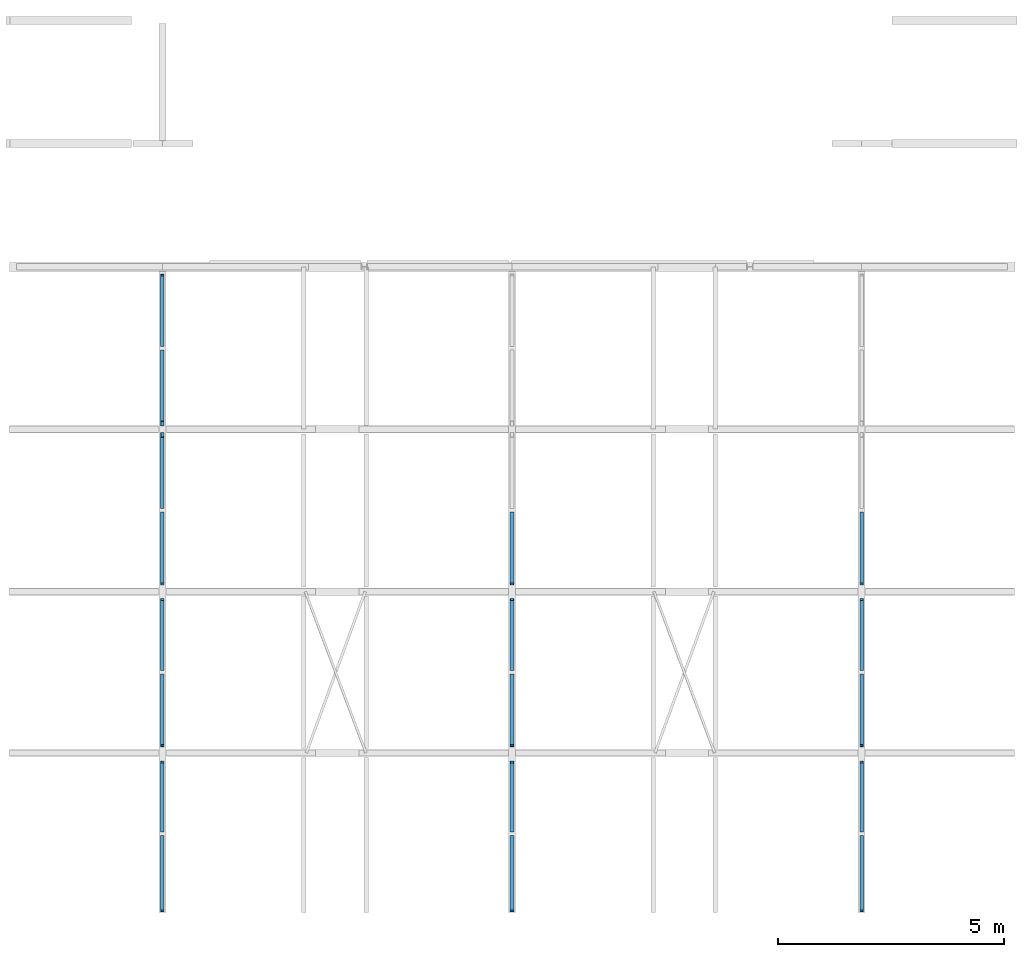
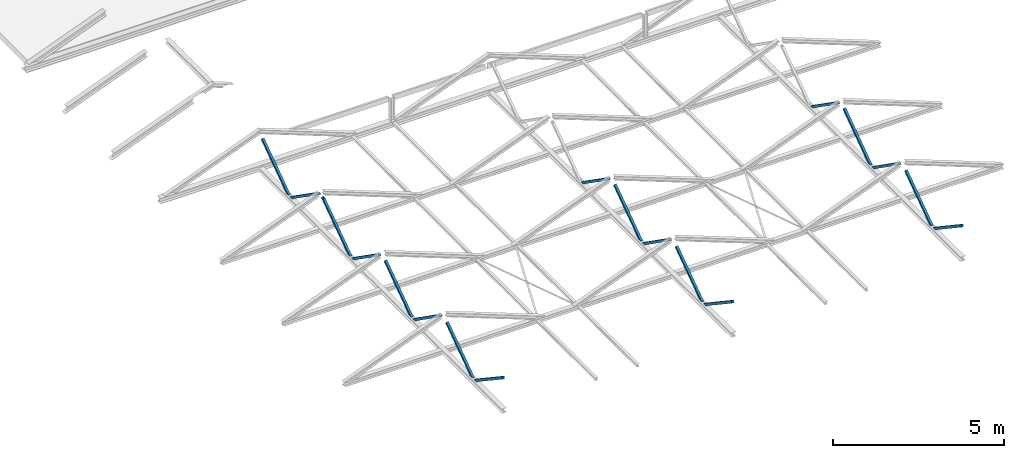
# One storey, part 9 of 10: 18 beams.
"""IFC2X3 building model written with IfcOpenShell, lengths in millimetres."""

from ifc_helpers import new_model, entity, si_unit, converted_unit, derived_unit, direction, frame, origin, place, context, subcontext, project, spatial, faceted_brep, material, type_object, element, save


model = new_model("IFC2X3")

# Units and contexts
model_context = context("Model", 3, precision=0.01, world=origin(), true_north=direction((6.123031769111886e-17, 1.0)))
body_context = subcontext(model_context, "Body", "Model", "MODEL_VIEW")
ifc_project = project(units=[si_unit("LENGTHUNIT", "METRE", prefix="MILLI"), si_unit("AREAUNIT", "SQUARE_METRE", prefix="MILLI"), si_unit("VOLUMEUNIT", "CUBIC_METRE"), converted_unit("PLANEANGLEUNIT", "DEGREE", entity("IfcPlaneAngleMeasure", 0.017453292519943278), si_unit("PLANEANGLEUNIT", "RADIAN"), dimensions=[0, 0, 0, 0, 0, 0, 0]), si_unit("MASSUNIT", "GRAM", prefix="KILO"), derived_unit("MASSDENSITYUNIT", [(si_unit("MASSUNIT", "GRAM", prefix="KILO"), 1), (si_unit("LENGTHUNIT", "METRE"), -3)]), derived_unit("IONCONCENTRATIONUNIT", [(si_unit("MASSUNIT", "GRAM", prefix="KILO"), 1), (si_unit("LENGTHUNIT", "METRE"), -3)]), derived_unit("MOMENTOFINERTIAUNIT", [(si_unit("LENGTHUNIT", "METRE"), 4)]), si_unit("TIMEUNIT", "SECOND"), si_unit("FREQUENCYUNIT", "HERTZ"), si_unit("THERMODYNAMICTEMPERATUREUNIT", "DEGREE_CELSIUS"), derived_unit("THERMALTRANSMITTANCEUNIT", [(si_unit("MASSUNIT", "GRAM", prefix="KILO"), 1), (si_unit("THERMODYNAMICTEMPERATUREUNIT", "KELVIN"), -1), (si_unit("TIMEUNIT", "SECOND"), -3)]), derived_unit("THERMALCONDUCTANCEUNIT", [(si_unit("MASSUNIT", "GRAM", prefix="KILO"), 1), (si_unit("THERMODYNAMICTEMPERATUREUNIT", "KELVIN"), -1), (si_unit("TIMEUNIT", "SECOND"), -3), (si_unit("LENGTHUNIT", "METRE"), 1)]), derived_unit("VOLUMETRICFLOWRATEUNIT", [(si_unit("LENGTHUNIT", "METRE", prefix="DECI"), 3), (si_unit("TIMEUNIT", "SECOND"), -1)]), derived_unit("MASSFLOWRATEUNIT", [(si_unit("MASSUNIT", "GRAM", prefix="KILO"), 1), (si_unit("TIMEUNIT", "SECOND"), -1)]), derived_unit("ROTATIONALFREQUENCYUNIT", [(si_unit("TIMEUNIT", "SECOND"), -1)]), si_unit("ELECTRICCURRENTUNIT", "AMPERE"), si_unit("ELECTRICVOLTAGEUNIT", "VOLT"), si_unit("POWERUNIT", "WATT"), si_unit("FORCEUNIT", "NEWTON", prefix="KILO"), si_unit("ILLUMINANCEUNIT", "LUX"), si_unit("LUMINOUSFLUXUNIT", "LUMEN"), si_unit("LUMINOUSINTENSITYUNIT", "CANDELA"), si_unit("ENERGYUNIT", "JOULE"), derived_unit("USERDEFINED", [(si_unit("MASSUNIT", "GRAM", prefix="KILO"), -1), (si_unit("LENGTHUNIT", "METRE"), -2), (si_unit("TIMEUNIT", "SECOND"), 3), (si_unit("LUMINOUSFLUXUNIT", "LUMEN"), 1)]), derived_unit("USERDEFINED", [(si_unit("MASSUNIT", "GRAM", prefix="KILO"), 1), (si_unit("TIMEUNIT", "SECOND"), -3), (si_unit("LENGTHUNIT", "METRE"), 3), (si_unit("ELECTRICCURRENTUNIT", "AMPERE"), -2)]), derived_unit("SOUNDPOWERUNIT", [(si_unit("MASSUNIT", "GRAM", prefix="KILO"), 1), (si_unit("TIMEUNIT", "SECOND"), -3), (si_unit("LENGTHUNIT", "METRE"), 2)]), derived_unit("SOUNDPRESSUREUNIT", [(si_unit("MASSUNIT", "GRAM", prefix="KILO"), 1), (si_unit("LENGTHUNIT", "METRE"), -1), (si_unit("TIMEUNIT", "SECOND"), -2)]), derived_unit("LINEARVELOCITYUNIT", [(si_unit("LENGTHUNIT", "METRE"), 1), (si_unit("TIMEUNIT", "SECOND"), -1)]), si_unit("PRESSUREUNIT", "PASCAL"), derived_unit("USERDEFINED", [(si_unit("MASSUNIT", "GRAM", prefix="KILO"), 1), (si_unit("LENGTHUNIT", "METRE"), -2), (si_unit("TIMEUNIT", "SECOND"), -2)]), derived_unit("LINEARFORCEUNIT", [(si_unit("MASSUNIT", "GRAM", prefix="KILO"), 1), (si_unit("TIMEUNIT", "SECOND"), -2)]), derived_unit("PLANARFORCEUNIT", [(si_unit("MASSUNIT", "GRAM", prefix="KILO"), 1), (si_unit("LENGTHUNIT", "METRE"), -1), (si_unit("TIMEUNIT", "SECOND"), -2)]), derived_unit("SPECIFICHEATCAPACITYUNIT", [(si_unit("THERMODYNAMICTEMPERATUREUNIT", "KELVIN"), -1), (si_unit("LENGTHUNIT", "METRE"), 2), (si_unit("TIMEUNIT", "SECOND"), -2)]), derived_unit("HEATFLUXDENSITYUNIT", [(si_unit("MASSUNIT", "GRAM", prefix="KILO"), 1), (si_unit("TIMEUNIT", "SECOND"), -3)]), derived_unit("HEATINGVALUEUNIT", [(si_unit("LENGTHUNIT", "METRE"), 2), (si_unit("TIMEUNIT", "SECOND"), -2)]), derived_unit("VAPORPERMEABILITYUNIT", [(si_unit("LENGTHUNIT", "METRE"), -1), (si_unit("TIMEUNIT", "SECOND"), 1)]), derived_unit("DYNAMICVISCOSITYUNIT", [(si_unit("MASSUNIT", "GRAM", prefix="KILO"), 1), (si_unit("TIMEUNIT", "SECOND"), -1), (si_unit("LENGTHUNIT", "METRE"), -1)]), derived_unit("THERMALEXPANSIONCOEFFICIENTUNIT", [(si_unit("THERMODYNAMICTEMPERATUREUNIT", "KELVIN"), -1)]), derived_unit("MODULUSOFELASTICITYUNIT", [(si_unit("MASSUNIT", "GRAM", prefix="KILO"), 1), (si_unit("LENGTHUNIT", "METRE"), -1), (si_unit("TIMEUNIT", "SECOND"), -2)]), derived_unit("ISOTHERMALMOISTURECAPACITYUNIT", [(si_unit("MASSUNIT", "GRAM", prefix="KILO"), -1), (si_unit("LENGTHUNIT", "METRE"), 3)]), derived_unit("MOISTUREDIFFUSIVITYUNIT", [(si_unit("TIMEUNIT", "SECOND"), -1), (si_unit("LENGTHUNIT", "METRE"), 2)]), derived_unit("MASSPERLENGTHUNIT", [(si_unit("MASSUNIT", "GRAM", prefix="KILO"), 1), (si_unit("LENGTHUNIT", "METRE"), -1)]), derived_unit("THERMALRESISTANCEUNIT", [(si_unit("MASSUNIT", "GRAM", prefix="KILO"), -1), (si_unit("TIMEUNIT", "SECOND"), 3), (si_unit("THERMODYNAMICTEMPERATUREUNIT", "KELVIN"), 1)]), derived_unit("ACCELERATIONUNIT", [(si_unit("LENGTHUNIT", "METRE"), 1), (si_unit("TIMEUNIT", "SECOND"), -2)]), derived_unit("ANGULARVELOCITYUNIT", [(si_unit("TIMEUNIT", "SECOND"), -1), (si_unit("PLANEANGLEUNIT", "RADIAN"), 1)]), derived_unit("LINEARSTIFFNESSUNIT", [(si_unit("MASSUNIT", "GRAM", prefix="KILO"), 1), (si_unit("TIMEUNIT", "SECOND"), -2)]), derived_unit("WARPINGCONSTANTUNIT", [(si_unit("LENGTHUNIT", "METRE"), 6)]), derived_unit("LINEARMOMENTUNIT", [(si_unit("MASSUNIT", "GRAM", prefix="KILO"), 1), (si_unit("LENGTHUNIT", "METRE"), 1), (si_unit("TIMEUNIT", "SECOND"), -2)]), derived_unit("TORQUEUNIT", [(si_unit("MASSUNIT", "GRAM", prefix="KILO"), 1), (si_unit("LENGTHUNIT", "METRE"), 2), (si_unit("TIMEUNIT", "SECOND"), -2)])], contexts=[model_context])

# Site, building, storey
site_placement = place(None, origin())
site = spatial("IfcSite", under=ifc_project, at=site_placement, Name="Default", CompositionType="ELEMENT")
building_placement = place(site_placement, origin())
building = spatial("IfcBuilding", under=site, at=building_placement, CompositionType="ELEMENT")
storey_placement = place(building_placement, frame((0.0, 0.0, 10840.0)))
storey = spatial("IfcBuildingStorey", under=building, at=storey_placement, Name="V3 dakvloer", CompositionType="ELEMENT", Elevation=10839.99999999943)

# Beams
ifc_material = material(Name="Metal - Steel - S275 J0H (standaard-kokers/buizen)")
beam_type = type_object("IfcBeamType", Name="btl_staal - Koker:K80x80x5.0", PredefinedType="NOTDEFINED")
beam_1_placement = place(storey_placement, frame((10185.896298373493, 15733.435212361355, 9.95312499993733), z_axis=(0.0, -0.5733968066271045, 0.8192777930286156), x_axis=(0.0, 0.8192777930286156, 0.5733968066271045)))
element("IfcBeam", 1, at=beam_1_placement, inside=storey, type_object=beam_type, material=ifc_material, Name="btl_staal - Koker:K80x80x5.0", ObjectType="btl_staal - Koker:K80x80x5.0", context=body_context, shape_type="Brep", body=[
    faceted_brep([(1894.609122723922, 0.0, -80.0), (1894.609122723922, -80.0, -80.0), (114.30517694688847, -80.0, -80.0), (114.30517694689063, 0.0, -80.0), (1894.609122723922, -5.0, -5.0), (1894.609122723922, -75.0, -5.0), (7.1440735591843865, -75.0, -5.0), (7.144073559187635, -5.0, -5.0), (1894.6091227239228, -5.0, -75.0), (1894.6091227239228, -75.0, -75.0), (1894.609122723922, -80.0, 0.0), (1894.609122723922, 0.0, 0.0), (0.0, 0.0, 0.0), (0.0, -80.0, 0.0), (107.16110338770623, -75.0, -75.0), (107.16110338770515, -5.0, -75.0)], [[[0, 1, 2, 3]], [[4, 5, 6, 7]], [[4, 8, 9, 5], [10, 1, 0, 11]], [[10, 11, 12, 13]], [[11, 0, 3, 12]], [[1, 10, 13, 2]], [[5, 9, 14, 6]], [[9, 8, 15, 14]], [[8, 4, 7, 15]], [[3, 2, 13, 12], [7, 6, 14, 15]]], outer=[[True], [True], [False, True], [True], [True], [True], [True], [True], [True], [True, False]]),
])
beam_2_placement = place(storey_placement, frame((10185.896298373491, 13964.605013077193, 1117.7385856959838), z_axis=(0.0, 0.5733968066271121, 0.8192777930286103), x_axis=(0.0, -0.8192777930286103, 0.5733968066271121)))
element("IfcBeam", 2, at=beam_2_placement, inside=storey, type_object=beam_type, material=ifc_material, Name="btl_staal - Koker:K80x80x5.0", ObjectType="btl_staal - Koker:K80x80x5.0", context=body_context, shape_type="Brep", body=[
    faceted_brep([(-1906.4333306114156, 0.0, -17.872664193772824), (-1906.4333306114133, 80.0, -17.87266419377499), (-12.508734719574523, 80.0, -17.872664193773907), (-12.508734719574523, 0.0, -17.872664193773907), (-2013.5944339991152, 5.0, 57.12733580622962), (-2013.5944339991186, 75.0, 57.12733580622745), (-81.62437784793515, 75.0, 57.12733580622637), (-81.62437784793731, 5.0, 57.12733580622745), (-2020.7385075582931, 80.0, 62.12733580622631), (-2020.7385075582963, 0.0, 62.12733580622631), (-88.76845140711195, 0.0, 62.1273358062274), (-88.76845140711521, 80.0, 62.12733580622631), (0.0, 0.0, 0.0), (0.0, 80.0, 0.0), (-1913.5774041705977, 75.0, -12.872664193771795), (-9.009330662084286, 75.0, -12.872664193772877), (0.0, 75.0, 0.0), (-1913.5774041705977, 5.0, -12.872664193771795), (-9.009330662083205, 5.0, -12.872664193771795), (0.0, 5.0, 0.0)], [[[0, 1, 2, 3]], [[4, 5, 6, 7]], [[8, 9, 10, 11]], [[9, 0, 3, 12, 10]], [[1, 8, 11, 13, 2]], [[5, 14, 15, 16, 6]], [[14, 17, 18, 15]], [[17, 4, 7, 19, 18]], [[1, 0, 9, 8], [5, 4, 17, 14]], [[13, 16, 15, 18, 19, 12, 3, 2]], [[16, 13, 11, 10, 12, 19, 7, 6]]]),
])
beam_3_placement = place(storey_placement, frame((10185.896298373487, 12133.435212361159, 9.953124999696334), z_axis=(0.0, -0.5733968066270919, 0.8192777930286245), x_axis=(0.0, 0.8192777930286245, 0.5733968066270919)))
element("IfcBeam", 3, at=beam_3_placement, inside=storey, type_object=beam_type, material=ifc_material, Name="btl_staal - Koker:K80x80x5.0", ObjectType="btl_staal - Koker:K80x80x5.0", context=body_context, shape_type="Brep", body=[
    faceted_brep([(114.30517694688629, -80.0, -80.0), (114.30517694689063, 0.0, -80.0), (2008.2297728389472, 0.0, -80.0), (2008.229772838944, -80.0, -80.0), (7.144073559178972, -75.0, -5.0), (7.144073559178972, -5.0, -5.0), (1939.1141297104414, -5.0, -5.0), (1939.1141297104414, -75.0, -5.0), (0.0, 0.0, 0.0), (0.0, -80.0, 0.0), (1931.9700561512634, -80.0, 0.0), (1931.9700561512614, 0.0, 0.0), (2020.7385075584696, 0.0, -62.127335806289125), (2020.7385075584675, -80.0, -62.127335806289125), (107.16110338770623, -75.0, -75.0), (2020.7385075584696, -75.0, -62.127335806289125), (2011.729176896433, -75.0, -75.0), (107.16110338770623, -5.0, -75.0), (2011.729176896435, -5.0, -75.0), (2020.7385075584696, -5.0, -62.127335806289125)], [[[0, 1, 2, 3]], [[4, 5, 6, 7]], [[8, 9, 10, 11]], [[1, 8, 11, 12, 2]], [[9, 0, 3, 13, 10]], [[14, 4, 7, 15, 16]], [[17, 14, 16, 18]], [[5, 17, 18, 19, 6]], [[1, 0, 9, 8], [5, 4, 14, 17]], [[13, 15, 7, 6, 19, 12, 11, 10]], [[15, 13, 3, 2, 12, 19, 18, 16]]]),
])
beam_4_placement = place(storey_placement, frame((10185.896298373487, 10443.629893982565, 1106.1576659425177), z_axis=(0.0, 0.5733968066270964, 0.8192777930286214), x_axis=(0.0, -0.8192777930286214, 0.5733968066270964)))
element("IfcBeam", 4, at=beam_4_placement, inside=storey, type_object=beam_type, material=ifc_material, Name="btl_staal - Koker:K80x80x5.0", ObjectType="btl_staal - Koker:K80x80x5.0", context=body_context, shape_type="Brep", body=[
    faceted_brep([(-37.58170162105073, 80.0, -53.697288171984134), (-37.58170162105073, 0.0, -53.697288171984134), (-1835.049538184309, 0.0, -53.697288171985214), (-1835.049538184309, 80.0, -53.697288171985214), (-37.58170162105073, 75.0, 21.30271182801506), (-37.58170162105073, 5.0, 21.30271182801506), (-1942.2106415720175, 5.0, 21.30271182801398), (-1942.2106415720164, 75.0, 21.30271182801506), (-37.58170162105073, 5.0, -48.69728817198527), (-37.58170162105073, 75.0, -48.69728817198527), (-37.581701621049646, 80.0, 26.302711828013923), (-37.581701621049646, 0.0, 26.302711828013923), (-1949.3547151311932, 80.0, 26.302711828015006), (-1949.3547151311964, 0.0, 26.30271182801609), (-1842.1936117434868, 75.0, -48.69728817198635), (-1842.1936117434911, 5.0, -48.697288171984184)], [[[0, 1, 2, 3]], [[4, 5, 6, 7]], [[8, 5, 4, 9], [0, 10, 11, 1]], [[11, 10, 12, 13]], [[1, 11, 13, 2]], [[10, 0, 3, 12]], [[9, 4, 7, 14]], [[8, 9, 14, 15]], [[5, 8, 15, 6]], [[3, 2, 13, 12], [7, 6, 15, 14]]], outer=[[True], [True], [False, True], [True], [True], [True], [True], [True], [True], [True, False]]),
])
beam_5_placement = place(storey_placement, frame((10185.89629837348, 8545.505908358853, 9.953124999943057), z_axis=(0.0, -0.5760789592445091, 0.8173940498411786), x_axis=(0.0, 0.8173940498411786, 0.5760789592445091)))
element("IfcBeam", 5, at=beam_5_placement, inside=storey, type_object=beam_type, material=ifc_material, Name="btl_staal - Koker:K80x80x5.0", ObjectType="btl_staal - Koker:K80x80x5.0", context=body_context, shape_type="Brep", body=[
    faceted_brep([(1901.7175127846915, 0.0, -80.0), (1901.7175127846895, -80.0, -80.0), (113.511390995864, -80.0, -80.0), (113.511390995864, 0.0, -80.0), (1901.7175127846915, -5.0, -5.0), (1901.7175127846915, -75.0, -5.0), (7.094461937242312, -75.0, -5.0), (7.094461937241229, -5.0, -5.0), (1901.7175127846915, -5.0, -75.0), (1901.7175127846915, -75.0, -75.0), (1901.7175127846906, -80.0, 0.0), (1901.7175127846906, 0.0, 0.0), (0.0, 0.0, 0.0), (0.0, -80.0, 0.0), (106.41692905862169, -75.0, -75.0), (106.41692905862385, -5.0, -75.0)], [[[0, 1, 2, 3]], [[4, 5, 6, 7]], [[4, 8, 9, 5], [10, 1, 0, 11]], [[10, 11, 12, 13]], [[11, 0, 3, 12]], [[1, 10, 13, 2]], [[5, 9, 14, 6]], [[9, 8, 15, 14]], [[8, 4, 7, 15]], [[3, 2, 13, 12], [7, 6, 14, 15]]], outer=[[True], [True], [False, True], [True], [True], [True], [True], [True], [True], [True, False]]),
])
beam_6_placement = place(storey_placement, frame((10185.896298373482, 6856.840756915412, 1113.4737710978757), z_axis=(0.0, 0.5760789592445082, 0.8173940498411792), x_axis=(0.0, -0.8173940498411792, 0.5760789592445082)))
element("IfcBeam", 6, at=beam_6_placement, inside=storey, type_object=beam_type, material=ifc_material, Name="btl_staal - Koker:K80x80x5.0", ObjectType="btl_staal - Koker:K80x80x5.0", context=body_context, shape_type="Brep", body=[
    faceted_brep([(-37.67068108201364, 80.0, -53.4506426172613), (-37.67068108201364, 0.0, -53.4506426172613), (-1839.731154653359, 0.0, -53.4506426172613), (-1839.731154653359, 80.0, -53.4506426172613), (-37.670681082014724, 75.0, 21.54935738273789), (-37.670681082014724, 5.0, 21.54935738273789), (-1946.1480837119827, 5.0, 21.54935738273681), (-1946.1480837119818, 75.0, 21.549357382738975), (-37.670681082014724, 5.0, -48.45064261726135), (-37.670681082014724, 75.0, -48.45064261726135), (-37.670681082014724, 80.0, 26.54935738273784), (-37.670681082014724, 0.0, 26.54935738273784), (-1953.242545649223, 80.0, 26.549357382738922), (-1953.242545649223, 0.0, 26.549357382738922), (-1846.8256165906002, 75.0, -48.45064261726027), (-1846.8256165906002, 5.0, -48.45064261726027)], [[[0, 1, 2, 3]], [[4, 5, 6, 7]], [[8, 5, 4, 9], [0, 10, 11, 1]], [[11, 10, 12, 13]], [[1, 11, 13, 2]], [[10, 0, 3, 12]], [[9, 4, 7, 14]], [[8, 9, 14, 15]], [[5, 8, 15, 6]], [[3, 2, 13, 12], [7, 6, 15, 14]]], outer=[[True], [True], [False, True], [True], [True], [True], [True], [True], [True], [True, False]]),
])
beam_7_placement = place(storey_placement, frame((10185.896298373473, 4970.505908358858, 9.953124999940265), z_axis=(0.0, -0.5760789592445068, 0.8173940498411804), x_axis=(0.0, 0.8173940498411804, 0.5760789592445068)))
element("IfcBeam", 7, at=beam_7_placement, inside=storey, type_object=beam_type, material=ifc_material, Name="btl_staal - Koker:K80x80x5.0", ObjectType="btl_staal - Koker:K80x80x5.0", context=body_context, shape_type="Brep", body=[
    faceted_brep([(1862.8329127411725, 0.0, -80.0), (1862.8329127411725, -80.0, -80.0), (113.5113909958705, -80.0, -80.0), (113.51139099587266, 0.0, -80.0), (1862.8329127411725, -5.0, -5.0), (1862.8329127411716, -75.0, -5.0), (7.094461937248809, -75.0, -5.0), (7.094461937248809, -5.0, -5.0), (1862.8329127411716, -5.0, -75.0), (1862.8329127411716, -75.0, -75.0), (1862.8329127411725, -80.0, 0.0), (1862.8329127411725, 0.0, 0.0), (0.0, 0.0, 0.0), (0.0, -80.0, 0.0), (106.41692905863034, -75.0, -75.0), (106.4169290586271, -5.0, -75.0)], [[[0, 1, 2, 3]], [[4, 5, 6, 7]], [[4, 8, 9, 5], [10, 1, 0, 11]], [[10, 11, 12, 13]], [[11, 0, 3, 12]], [[1, 10, 13, 2]], [[5, 9, 14, 6]], [[9, 8, 15, 14]], [[8, 4, 7, 15]], [[3, 2, 13, 12], [7, 6, 14, 15]]], outer=[[True], [True], [False, True], [True], [True], [True], [True], [True], [True], [True, False]]),
])
beam_8_placement = place(storey_placement, frame((10185.896298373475, 3199.6858091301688, 1110.465837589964), z_axis=(0.0, 0.5557540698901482, 0.8313467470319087), x_axis=(0.0, -0.8313467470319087, 0.5557540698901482)))
element("IfcBeam", 8, at=beam_8_placement, inside=storey, type_object=beam_type, material=ifc_material, Name="btl_staal - Koker:K80x80x5.0", ObjectType="btl_staal - Koker:K80x80x5.0", context=body_context, shape_type="Brep", body=[
    faceted_brep([(-36.96194705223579, 80.0, -55.29099310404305), (-36.96194705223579, 0.0, -55.29099310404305), (-1897.5060777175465, 0.0, -55.290993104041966), (-1897.5060777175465, 80.0, -55.290993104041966), (-36.961947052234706, 75.0, 19.70900689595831), (-36.961947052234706, 5.0, 19.70900689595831), (-2009.6977995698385, 5.0, 19.709006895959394), (-2009.697799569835, 75.0, 19.709006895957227), (-36.961947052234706, 5.0, -50.29099310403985), (-36.961947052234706, 75.0, -50.29099310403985), (-36.961947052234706, 80.0, 24.709006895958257), (-36.961947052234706, 0.0, 24.709006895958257), (-2017.1772476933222, 80.0, 24.709006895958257), (-2017.1772476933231, 0.0, 24.70900689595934), (-1904.9855258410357, 75.0, -50.29099310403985), (-1904.9855258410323, 5.0, -50.290993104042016)], [[[0, 1, 2, 3]], [[4, 5, 6, 7]], [[8, 5, 4, 9], [0, 10, 11, 1]], [[11, 10, 12, 13]], [[1, 11, 13, 2]], [[10, 0, 3, 12]], [[9, 4, 7, 14]], [[8, 9, 14, 15]], [[5, 8, 15, 6]], [[3, 2, 13, 12], [7, 6, 15, 14]]], outer=[[True], [True], [False, True], [True], [True], [True], [True], [True], [True], [True, False]]),
])
beam_9_placement = place(storey_placement, frame((17934.986142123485, 10443.629893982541, 1106.1576659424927), z_axis=(0.0, 0.5733968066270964, 0.8192777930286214), x_axis=(0.0, -0.8192777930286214, 0.5733968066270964)))
element("IfcBeam", 9, at=beam_9_placement, inside=storey, type_object=beam_type, material=ifc_material, Name="btl_staal - Koker:K80x80x5.0", ObjectType="btl_staal - Koker:K80x80x5.0", context=body_context, shape_type="Brep", body=[
    faceted_brep([(-37.58170162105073, 80.0, -53.69728817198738), (-37.58170162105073, 0.0, -53.69728817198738), (-1835.049538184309, 0.0, -53.69728817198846), (-1835.049538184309, 80.0, -53.69728817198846), (-37.581701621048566, 75.0, 21.302711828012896), (-37.581701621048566, 5.0, 21.302711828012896), (-1942.210641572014, 5.0, 21.302711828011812), (-1942.210641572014, 75.0, 21.302711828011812), (-37.58170162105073, 5.0, -48.69728817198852), (-37.58170162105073, 75.0, -48.69728817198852), (-37.581701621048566, 80.0, 26.302711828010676), (-37.581701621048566, 0.0, 26.302711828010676), (-1949.3547151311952, 80.0, 26.302711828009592), (-1949.3547151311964, 0.0, 26.302711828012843), (-1842.1936117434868, 75.0, -48.6972881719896), (-1842.1936117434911, 5.0, -48.69728817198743)], [[[0, 1, 2, 3]], [[4, 5, 6, 7]], [[8, 5, 4, 9], [0, 10, 11, 1]], [[11, 10, 12, 13]], [[1, 11, 13, 2]], [[10, 0, 3, 12]], [[9, 4, 7, 14]], [[8, 9, 14, 15]], [[5, 8, 15, 6]], [[3, 2, 13, 12], [7, 6, 15, 14]]], outer=[[True], [True], [False, True], [True], [True], [True], [True], [True], [True], [True, False]]),
])
beam_10_placement = place(storey_placement, frame((17934.986142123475, 8545.50590835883, 9.953124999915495), z_axis=(0.0, -0.5760789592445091, 0.8173940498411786), x_axis=(0.0, 0.8173940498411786, 0.5760789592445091)))
element("IfcBeam", 10, at=beam_10_placement, inside=storey, type_object=beam_type, material=ifc_material, Name="btl_staal - Koker:K80x80x5.0", ObjectType="btl_staal - Koker:K80x80x5.0", context=body_context, shape_type="Brep", body=[
    faceted_brep([(1901.7175127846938, 0.0, -80.0), (1901.7175127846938, -80.0, -80.0), (113.511390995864, -80.0, -80.0), (113.51139099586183, 0.0, -80.0), (1901.7175127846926, -5.0, -5.0), (1901.717512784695, -75.0, -5.0), (7.094461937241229, -75.0, -5.0), (7.094461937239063, -5.0, -5.0), (1901.7175127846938, -5.0, -75.0), (1901.7175127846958, -75.0, -75.0), (1901.717512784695, -80.0, 0.0), (1901.7175127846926, 0.0, 0.0), (0.0, 0.0, 0.0), (0.0, -80.0, 0.0), (106.41692905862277, -75.0, -75.0), (106.41692905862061, -5.0, -75.0)], [[[0, 1, 2, 3]], [[4, 5, 6, 7]], [[4, 8, 9, 5], [10, 1, 0, 11]], [[10, 11, 12, 13]], [[11, 0, 3, 12]], [[1, 10, 13, 2]], [[5, 9, 14, 6]], [[9, 8, 15, 14]], [[8, 4, 7, 15]], [[3, 2, 13, 12], [7, 6, 14, 15]]], outer=[[True], [True], [False, True], [True], [True], [True], [True], [True], [True], [True, False]]),
])
beam_11_placement = place(storey_placement, frame((17934.98614212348, 6856.840756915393, 1113.4737710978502), z_axis=(0.0, 0.5760789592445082, 0.8173940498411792), x_axis=(0.0, -0.8173940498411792, 0.5760789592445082)))
element("IfcBeam", 11, at=beam_11_placement, inside=storey, type_object=beam_type, material=ifc_material, Name="btl_staal - Koker:K80x80x5.0", ObjectType="btl_staal - Koker:K80x80x5.0", context=body_context, shape_type="Brep", body=[
    faceted_brep([(-37.67068108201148, 80.0, -53.45064261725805), (-37.67068108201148, 0.0, -53.45064261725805), (-1839.7311546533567, 0.0, -53.450642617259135), (-1839.7311546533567, 80.0, -53.450642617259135), (-37.67068108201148, 75.0, 21.549357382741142), (-37.67068108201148, 5.0, 21.549357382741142), (-1946.1480837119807, 5.0, 21.549357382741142), (-1946.1480837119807, 75.0, 21.549357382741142), (-37.67068108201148, 5.0, -48.450642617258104), (-37.67068108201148, 75.0, -48.450642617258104), (-37.67068108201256, 80.0, 26.549357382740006), (-37.67068108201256, 0.0, 26.549357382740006), (-1953.2425456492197, 80.0, 26.549357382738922), (-1953.2425456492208, 0.0, 26.549357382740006), (-1846.825616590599, 75.0, -48.450642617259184), (-1846.825616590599, 5.0, -48.450642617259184)], [[[0, 1, 2, 3]], [[4, 5, 6, 7]], [[8, 5, 4, 9], [0, 10, 11, 1]], [[11, 10, 12, 13]], [[1, 11, 13, 2]], [[10, 0, 3, 12]], [[9, 4, 7, 14]], [[8, 9, 14, 15]], [[5, 8, 15, 6]], [[3, 2, 13, 12], [7, 6, 15, 14]]], outer=[[True], [True], [False, True], [True], [True], [True], [True], [True], [True], [True, False]]),
])
beam_12_placement = place(storey_placement, frame((17934.986142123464, 4970.505908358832, 9.953124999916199), z_axis=(0.0, -0.5760789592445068, 0.8173940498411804), x_axis=(0.0, 0.8173940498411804, 0.5760789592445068)))
element("IfcBeam", 12, at=beam_12_placement, inside=storey, type_object=beam_type, material=ifc_material, Name="btl_staal - Koker:K80x80x5.0", ObjectType="btl_staal - Koker:K80x80x5.0", context=body_context, shape_type="Brep", body=[
    faceted_brep([(1862.8329127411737, 0.0, -80.0), (1862.832912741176, -80.0, -80.0), (113.51139099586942, -80.0, -80.0), (113.51139099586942, 0.0, -80.0), (1862.8329127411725, -5.0, -5.0), (1862.8329127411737, -75.0, -5.0), (7.0944619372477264, -75.0, -5.0), (7.094461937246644, -5.0, -5.0), (1862.8329127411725, -5.0, -75.0), (1862.8329127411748, -75.0, -75.0), (1862.8329127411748, -80.0, 0.0), (1862.8329127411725, 0.0, 0.0), (0.0, 0.0, 0.0), (0.0, -80.0, 0.0), (106.41692905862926, -75.0, -75.0), (106.41692905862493, -5.0, -75.0)], [[[0, 1, 2, 3]], [[4, 5, 6, 7]], [[4, 8, 9, 5], [10, 1, 0, 11]], [[10, 11, 12, 13]], [[11, 0, 3, 12]], [[1, 10, 13, 2]], [[5, 9, 14, 6]], [[9, 8, 15, 14]], [[8, 4, 7, 15]], [[3, 2, 13, 12], [7, 6, 14, 15]]], outer=[[True], [True], [False, True], [True], [True], [True], [True], [True], [True], [True, False]]),
])
beam_13_placement = place(storey_placement, frame((17934.986142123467, 3199.685809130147, 1110.4658375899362), z_axis=(0.0, 0.5557540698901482, 0.8313467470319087), x_axis=(0.0, -0.8313467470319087, 0.5557540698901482)))
element("IfcBeam", 13, at=beam_13_placement, inside=storey, type_object=beam_type, material=ifc_material, Name="btl_staal - Koker:K80x80x5.0", ObjectType="btl_staal - Koker:K80x80x5.0", context=body_context, shape_type="Brep", body=[
    faceted_brep([(-36.96194705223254, 80.0, -55.29099310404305), (-36.96194705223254, 0.0, -55.29099310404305), (-1897.5060777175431, 0.0, -55.29099310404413), (-1897.5060777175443, 80.0, -55.290993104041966), (-36.96194705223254, 75.0, 19.70900689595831), (-36.96194705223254, 5.0, 19.70900689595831), (-2009.697799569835, 5.0, 19.70900689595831), (-2009.697799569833, 75.0, 19.709006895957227), (-36.96194705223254, 5.0, -50.290993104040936), (-36.961947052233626, 75.0, -50.290993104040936), (-36.961947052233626, 80.0, 24.709006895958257), (-36.96194705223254, 0.0, 24.709006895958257), (-2017.17724769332, 80.0, 24.709006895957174), (-2017.177247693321, 0.0, 24.709006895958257), (-1904.9855258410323, 75.0, -50.290993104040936), (-1904.9855258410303, 5.0, -50.2909931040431)], [[[0, 1, 2, 3]], [[4, 5, 6, 7]], [[8, 5, 4, 9], [0, 10, 11, 1]], [[11, 10, 12, 13]], [[1, 11, 13, 2]], [[10, 0, 3, 12]], [[9, 4, 7, 14]], [[8, 9, 14, 15]], [[5, 8, 15, 6]], [[3, 2, 13, 12], [7, 6, 15, 14]]], outer=[[True], [True], [False, True], [True], [True], [True], [True], [True], [True], [True, False]]),
])
beam_14_placement = place(storey_placement, frame((25684.07989212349, 10443.629893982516, 1106.1576659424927), z_axis=(0.0, 0.5733968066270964, 0.8192777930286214), x_axis=(0.0, -0.8192777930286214, 0.5733968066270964)))
element("IfcBeam", 14, at=beam_14_placement, inside=storey, type_object=beam_type, material=ifc_material, Name="btl_staal - Koker:K80x80x5.0", ObjectType="btl_staal - Koker:K80x80x5.0", context=body_context, shape_type="Brep", body=[
    faceted_brep([(-37.58170162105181, 80.0, -53.697288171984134), (-37.58170162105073, 0.0, -53.697288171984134), (-1835.0495381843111, 0.0, -53.69728817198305), (-1835.04953818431, 80.0, -53.697288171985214), (-37.581701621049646, 75.0, 21.30271182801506), (-37.581701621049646, 5.0, 21.30271182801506), (-1942.2106415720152, 5.0, 21.30271182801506), (-1942.2106415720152, 75.0, 21.30271182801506), (-37.58170162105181, 5.0, -48.69728817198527), (-37.58170162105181, 75.0, -48.69728817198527), (-37.581701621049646, 80.0, 26.302711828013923), (-37.581701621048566, 0.0, 26.302711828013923), (-1949.3547151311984, 80.0, 26.302711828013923), (-1949.3547151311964, 0.0, 26.30271182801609), (-1842.193611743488, 75.0, -48.69728817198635), (-1842.1936117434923, 5.0, -48.697288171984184)], [[[0, 1, 2, 3]], [[4, 5, 6, 7]], [[8, 5, 4, 9], [0, 10, 11, 1]], [[11, 10, 12, 13]], [[1, 11, 13, 2]], [[10, 0, 3, 12]], [[9, 4, 7, 14]], [[8, 9, 14, 15]], [[5, 8, 15, 6]], [[3, 2, 13, 12], [7, 6, 15, 14]]], outer=[[True], [True], [False, True], [True], [True], [True], [True], [True], [True], [True, False]]),
])
beam_15_placement = place(storey_placement, frame((25684.07989212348, 8545.505908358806, 9.95312499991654), z_axis=(0.0, -0.5760789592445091, 0.8173940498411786), x_axis=(0.0, 0.8173940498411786, 0.5760789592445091)))
element("IfcBeam", 15, at=beam_15_placement, inside=storey, type_object=beam_type, material=ifc_material, Name="btl_staal - Koker:K80x80x5.0", ObjectType="btl_staal - Koker:K80x80x5.0", context=body_context, shape_type="Brep", body=[
    faceted_brep([(1901.7175127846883, 0.0, -80.0), (1901.7175127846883, -80.0, -80.0), (113.51139099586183, -80.0, -80.0), (113.51139099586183, 0.0, -80.0), (1901.7175127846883, -5.0, -5.0), (1901.7175127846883, -75.0, -5.0), (7.0944619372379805, -75.0, -5.0), (7.094461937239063, -5.0, -5.0), (1901.7175127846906, -5.0, -75.0), (1901.7175127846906, -75.0, -75.0), (1901.7175127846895, -80.0, 0.0), (1901.7175127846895, 0.0, 0.0), (0.0, 0.0, 0.0), (0.0, -80.0, 0.0), (106.41692905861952, -75.0, -75.0), (106.41692905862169, -5.0, -75.0)], [[[0, 1, 2, 3]], [[4, 5, 6, 7]], [[4, 8, 9, 5], [10, 1, 0, 11]], [[10, 11, 12, 13]], [[11, 0, 3, 12]], [[1, 10, 13, 2]], [[5, 9, 14, 6]], [[9, 8, 15, 14]], [[8, 4, 7, 15]], [[3, 2, 13, 12], [7, 6, 14, 15]]], outer=[[True], [True], [False, True], [True], [True], [True], [True], [True], [True], [True, False]]),
])
beam_16_placement = place(storey_placement, frame((25684.079892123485, 6856.840756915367, 1113.4737710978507), z_axis=(0.0, 0.5760789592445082, 0.8173940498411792), x_axis=(0.0, -0.8173940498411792, 0.5760789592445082)))
element("IfcBeam", 16, at=beam_16_placement, inside=storey, type_object=beam_type, material=ifc_material, Name="btl_staal - Koker:K80x80x5.0", ObjectType="btl_staal - Koker:K80x80x5.0", context=body_context, shape_type="Brep", body=[
    faceted_brep([(-37.67068108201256, 80.0, -53.450642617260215), (-37.67068108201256, 0.0, -53.450642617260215), (-1839.7311546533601, 0.0, -53.4506426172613), (-1839.7311546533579, 80.0, -53.450642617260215), (-37.67068108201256, 75.0, 21.549357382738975), (-37.67068108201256, 5.0, 21.549357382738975), (-1946.1480837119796, 5.0, 21.549357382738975), (-1946.1480837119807, 75.0, 21.54935738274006), (-37.67068108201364, 5.0, -48.45064261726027), (-37.67068108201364, 75.0, -48.45064261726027), (-37.67068108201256, 80.0, 26.549357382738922), (-37.67068108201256, 0.0, 26.549357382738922), (-1953.242545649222, 80.0, 26.549357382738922), (-1953.242545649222, 0.0, 26.549357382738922), (-1846.825616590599, 75.0, -48.450642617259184), (-1846.825616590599, 5.0, -48.450642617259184)], [[[0, 1, 2, 3]], [[4, 5, 6, 7]], [[8, 5, 4, 9], [0, 10, 11, 1]], [[11, 10, 12, 13]], [[1, 11, 13, 2]], [[10, 0, 3, 12]], [[9, 4, 7, 14]], [[8, 9, 14, 15]], [[5, 8, 15, 6]], [[3, 2, 13, 12], [7, 6, 15, 14]]], outer=[[True], [True], [False, True], [True], [True], [True], [True], [True], [True], [True, False]]),
])
beam_17_placement = place(storey_placement, frame((25684.07989212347, 4970.505908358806, 9.953124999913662), z_axis=(0.0, -0.5760789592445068, 0.8173940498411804), x_axis=(0.0, 0.8173940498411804, 0.5760789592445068)))
element("IfcBeam", 17, at=beam_17_placement, inside=storey, type_object=beam_type, material=ifc_material, Name="btl_staal - Koker:K80x80x5.0", ObjectType="btl_staal - Koker:K80x80x5.0", context=body_context, shape_type="Brep", body=[
    faceted_brep([(1862.8329127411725, 0.0, -80.0), (1862.8329127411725, -80.0, -80.0), (113.51139099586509, -80.0, -80.0), (113.51139099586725, 0.0, -80.0), (1862.8329127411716, -5.0, -5.0), (1862.8329127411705, -75.0, -5.0), (7.094461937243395, -75.0, -5.0), (7.094461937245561, -5.0, -5.0), (1862.8329127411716, -5.0, -75.0), (1862.8329127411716, -75.0, -75.0), (1862.8329127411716, -80.0, 0.0), (1862.8329127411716, 0.0, 0.0), (0.0, 0.0, 0.0), (0.0, -80.0, 0.0), (106.41692905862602, -75.0, -75.0), (106.41692905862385, -5.0, -75.0)], [[[0, 1, 2, 3]], [[4, 5, 6, 7]], [[4, 8, 9, 5], [10, 1, 0, 11]], [[10, 11, 12, 13]], [[11, 0, 3, 12]], [[1, 10, 13, 2]], [[5, 9, 14, 6]], [[9, 8, 15, 14]], [[8, 4, 7, 15]], [[3, 2, 13, 12], [7, 6, 14, 15]]], outer=[[True], [True], [False, True], [True], [True], [True], [True], [True], [True], [True, False]]),
])
beam_18_placement = place(storey_placement, frame((25684.07989212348, 3199.6858091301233, 1110.4658375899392), z_axis=(0.0, 0.5557540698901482, 0.8313467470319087), x_axis=(0.0, -0.8313467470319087, 0.5557540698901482)))
element("IfcBeam", 18, at=beam_18_placement, inside=storey, type_object=beam_type, material=ifc_material, Name="btl_staal - Koker:K80x80x5.0", ObjectType="btl_staal - Koker:K80x80x5.0", context=body_context, shape_type="Brep", body=[
    faceted_brep([(-36.961947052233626, 80.0, -55.29099310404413), (-36.961947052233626, 0.0, -55.29099310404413), (-1897.5060777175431, 0.0, -55.29099310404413), (-1897.5060777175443, 80.0, -55.29099310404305), (-36.961947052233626, 75.0, 19.709006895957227), (-36.961947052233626, 5.0, 19.709006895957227), (-2009.697799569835, 5.0, 19.709006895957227), (-2009.697799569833, 75.0, 19.709006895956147), (-36.961947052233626, 5.0, -50.290993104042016), (-36.961947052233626, 75.0, -50.290993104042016), (-36.96194705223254, 80.0, 24.70900689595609), (-36.96194705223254, 0.0, 24.70900689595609), (-2017.17724769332, 80.0, 24.70900689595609), (-2017.177247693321, 0.0, 24.709006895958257), (-1904.9855258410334, 75.0, -50.290993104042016), (-1904.9855258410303, 5.0, -50.29099310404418)], [[[0, 1, 2, 3]], [[4, 5, 6, 7]], [[8, 5, 4, 9], [0, 10, 11, 1]], [[11, 10, 12, 13]], [[1, 11, 13, 2]], [[10, 0, 3, 12]], [[9, 4, 7, 14]], [[8, 9, 14, 15]], [[5, 8, 15, 6]], [[3, 2, 13, 12], [7, 6, 15, 14]]], outer=[[True], [True], [False, True], [True], [True], [True], [True], [True], [True], [True, False]]),
])

save(model, "model.ifc")
